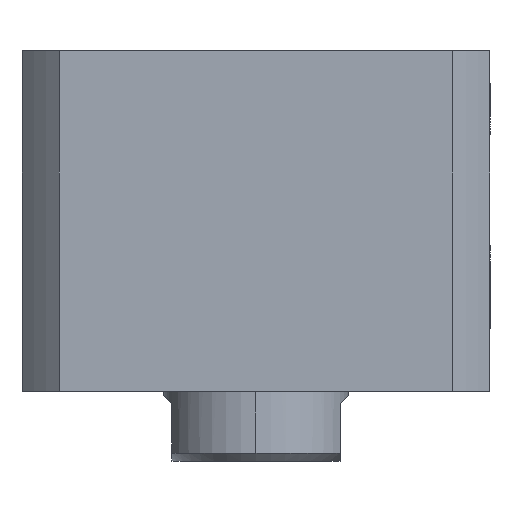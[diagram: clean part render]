
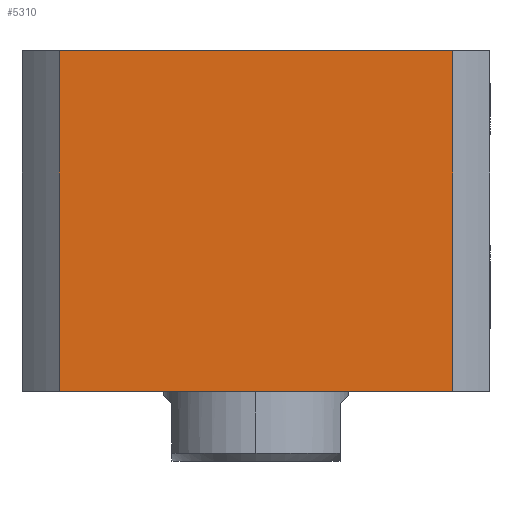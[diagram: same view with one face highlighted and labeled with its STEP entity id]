
A CAD part, left-side view. The second image highlights one B-rep face of the part: STEP entity #5310.
In plain terms, the highlighted planar face has unit normal (-1, 0, 0).
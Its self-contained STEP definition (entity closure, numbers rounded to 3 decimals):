
#33 = ORIENTED_EDGE ( 'NONE', *, *, #2530, .F. ) ;
#157 = ORIENTED_EDGE ( 'NONE', *, *, #6992, .T. ) ;
#167 = AXIS2_PLACEMENT_3D ( 'NONE', #789, #4325, #12547 ) ;
#789 = CARTESIAN_POINT ( 'NONE',  ( -57., 57., 83. ) ) ;
#805 = VECTOR ( 'NONE', #9442, 1000. ) ;
#919 = CARTESIAN_POINT ( 'NONE',  ( -57., -47.971, 0. ) ) ;
#2160 = CARTESIAN_POINT ( 'NONE',  ( -57., 47.971, 0. ) ) ;
#2354 = VERTEX_POINT ( 'NONE', #919 ) ;
#2530 = EDGE_CURVE ( 'NONE', #4416, #5885, #13912, .T. ) ;
#3043 = VERTEX_POINT ( 'NONE', #13198 ) ;
#3613 = EDGE_LOOP ( 'NONE', ( #33, #157, #10597, #8703 ) ) ;
#4325 = DIRECTION ( 'NONE',  ( 1., 0., 0. ) ) ;
#4416 = VERTEX_POINT ( 'NONE', #2160 ) ;
#4503 = VECTOR ( 'NONE', #8174, 1000. ) ;
#4962 = DIRECTION ( 'NONE',  ( 0., 0., -1. ) ) ;
#4980 = FACE_OUTER_BOUND ( 'NONE', #3613, .T. ) ;
#5310 = ADVANCED_FACE ( 'NONE', ( #4980 ), #9021, .F. ) ;
#5885 = VERTEX_POINT ( 'NONE', #12278 ) ;
#6222 = DIRECTION ( 'NONE',  ( 0., -1., 0. ) ) ;
#6974 = CARTESIAN_POINT ( 'NONE',  ( -57., 47.971, -217. ) ) ;
#6992 = EDGE_CURVE ( 'NONE', #4416, #2354, #10512, .T. ) ;
#7013 = VECTOR ( 'NONE', #6222, 1000. ) ;
#7443 = CARTESIAN_POINT ( 'NONE',  ( -57., 57., 0. ) ) ;
#8174 = DIRECTION ( 'NONE',  ( 0., 0., 1. ) ) ;
#8261 = CARTESIAN_POINT ( 'NONE',  ( -57., 57., 83. ) ) ;
#8703 = ORIENTED_EDGE ( 'NONE', *, *, #11012, .F. ) ;
#9021 = PLANE ( 'NONE',  #167 ) ;
#9442 = DIRECTION ( 'NONE',  ( 0., -1., 0. ) ) ;
#9742 = LINE ( 'NONE', #13205, #13228 ) ;
#10512 = LINE ( 'NONE', #7443, #7013 ) ;
#10597 = ORIENTED_EDGE ( 'NONE', *, *, #14117, .F. ) ;
#11012 = EDGE_CURVE ( 'NONE', #5885, #3043, #13304, .T. ) ;
#12278 = CARTESIAN_POINT ( 'NONE',  ( -57., 47.971, 83. ) ) ;
#12547 = DIRECTION ( 'NONE',  ( 0., 1., 0. ) ) ;
#13198 = CARTESIAN_POINT ( 'NONE',  ( -57., -47.971, 83. ) ) ;
#13205 = CARTESIAN_POINT ( 'NONE',  ( -57., -47.971, -217. ) ) ;
#13228 = VECTOR ( 'NONE', #4962, 1000. ) ;
#13304 = LINE ( 'NONE', #8261, #805 ) ;
#13912 = LINE ( 'NONE', #6974, #4503 ) ;
#14117 = EDGE_CURVE ( 'NONE', #3043, #2354, #9742, .T. ) ;
